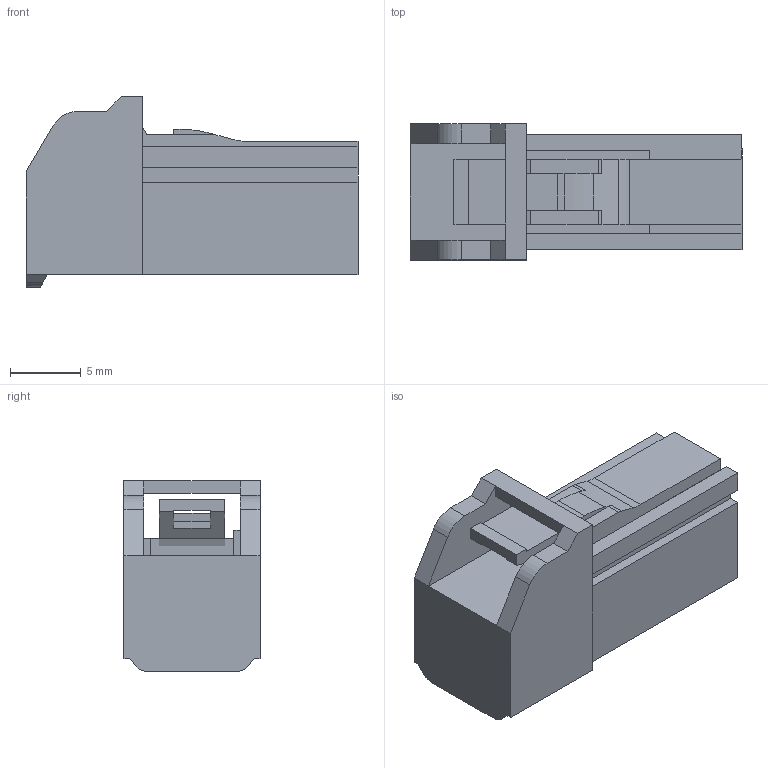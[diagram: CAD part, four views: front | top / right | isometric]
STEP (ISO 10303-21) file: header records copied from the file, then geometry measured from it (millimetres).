
FILE_DESCRIPTION(('CATIA V5 STEP','CAx-IF Rec.Pracs.--- Model Styling and Organization---1.4--- 2014-01-23'),'2;1');
FILE_NAME('\\fs0427\Server\共有情報\コネクタ開発部\特命業務\特ｰ35ｰ部品総合カタログメンテナンス\21年度\掲載用３Dモデル\ETHERNET\ETHERNET３D(トヨタ提出していないものがあるのでチェックしてください）\6910-8250.stp','2023-04-06T00:05:11+00:00',('none'),('none'),'CATIA Version 5-6 Release 2017 SP5 HF58','CATIA V5 STEP AP214','none');
FILE_SCHEMA(('AUTOMOTIVE_DESIGN { 1 0 10303 214 1 1 1 1 }'));
Length unit declared in the file: millimetre
Products named in the file (1): 6910-8250
Bounding box: 23.4 x 9.6 x 13.45 mm (x, y, z)
Volume: 1757.9 mm3; surface area: 1413.6 mm2
Topology: 1 solids, 1 shells, 73 faces, 217 edges, 142 vertices
Faces by surface type: plane 65, cylinder 8
Entity records: 2370 total; most frequent: CARTESIAN_POINT 451, ORIENTED_EDGE 434, DIRECTION 331, EDGE_CURVE 217, VECTOR 201, LINE 201, VERTEX_POINT 142, ADVANCED_FACE 73
